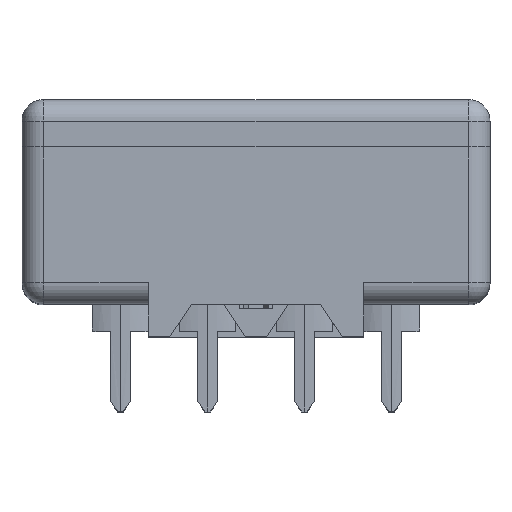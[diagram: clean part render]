
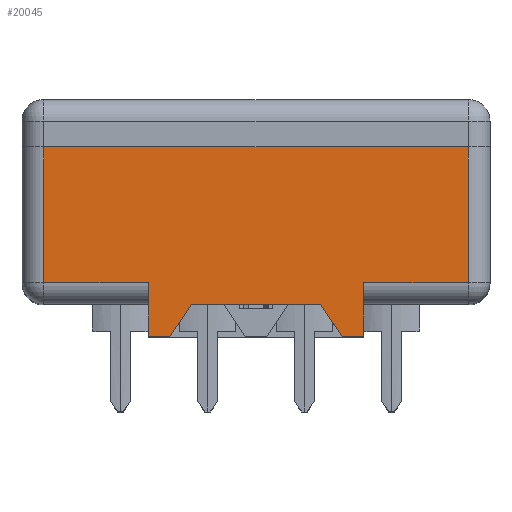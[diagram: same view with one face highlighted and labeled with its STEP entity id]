
A CAD part, top view. The second image highlights one B-rep face of the part: STEP entity #20045.
In plain terms, the highlighted planar face has unit normal (0, 0, 1).
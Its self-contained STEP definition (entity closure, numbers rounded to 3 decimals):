
#425 = VERTEX_POINT ( 'NONE', #6103 ) ;
#429 = VERTEX_POINT ( 'NONE', #6107 ) ;
#447 = VERTEX_POINT ( 'NONE', #6125 ) ;
#559 = VERTEX_POINT ( 'NONE', #6237 ) ;
#669 = VERTEX_POINT ( 'NONE', #6347 ) ;
#672 = VERTEX_POINT ( 'NONE', #6350 ) ;
#736 = VERTEX_POINT ( 'NONE', #6414 ) ;
#776 = VERTEX_POINT ( 'NONE', #6454 ) ;
#790 = VERTEX_POINT ( 'NONE', #6468 ) ;
#805 = VERTEX_POINT ( 'NONE', #6483 ) ;
#846 = VERTEX_POINT ( 'NONE', #6524 ) ;
#847 = VERTEX_POINT ( 'NONE', #6525 ) ;
#3421 = ORIENTED_EDGE ( 'NONE', *, *, #4004, .T. ) ;
#3422 = ORIENTED_EDGE ( 'NONE', *, *, #3891, .F. ) ;
#3423 = ORIENTED_EDGE ( 'NONE', *, *, #4003, .F. ) ;
#3424 = ORIENTED_EDGE ( 'NONE', *, *, #4005, .F. ) ;
#3425 = ORIENTED_EDGE ( 'NONE', *, *, #20719, .F. ) ;
#3426 = ORIENTED_EDGE ( 'NONE', *, *, #4006, .F. ) ;
#3427 = ORIENTED_EDGE ( 'NONE', *, *, #4007, .T. ) ;
#3428 = ORIENTED_EDGE ( 'NONE', *, *, #3894, .F. ) ;
#3429 = ORIENTED_EDGE ( 'NONE', *, *, #3879, .F. ) ;
#3430 = ORIENTED_EDGE ( 'NONE', *, *, #4000, .T. ) ;
#3431 = ORIENTED_EDGE ( 'NONE', *, *, #4008, .T. ) ;
#3432 = ORIENTED_EDGE ( 'NONE', *, *, #4009, .T. ) ;
#3879 = EDGE_CURVE ( 'NONE', #425, #559, #8579, .T. ) ;
#3891 = EDGE_CURVE ( 'NONE', #429, #847, #8615, .T. ) ;
#3894 = EDGE_CURVE ( 'NONE', #559, #846, #8624, .T. ) ;
#4000 = EDGE_CURVE ( 'NONE', #790, #805, #8942, .T. ) ;
#4003 = EDGE_CURVE ( 'NONE', #847, #669, #8951, .T. ) ;
#4004 = EDGE_CURVE ( 'NONE', #776, #669, #8954, .T. ) ;
#4005 = EDGE_CURVE ( 'NONE', #736, #429, #8957, .T. ) ;
#4006 = EDGE_CURVE ( 'NONE', #846, #672, #8960, .T. ) ;
#4007 = EDGE_CURVE ( 'NONE', #425, #447, #8963, .T. ) ;
#4008 = EDGE_CURVE ( 'NONE', #447, #790, #8966, .T. ) ;
#4009 = EDGE_CURVE ( 'NONE', #805, #776, #8969, .T. ) ;
#5294 = EDGE_LOOP ( 'NONE', ( #3421, #3423, #3422, #3424, #3425, #3426, #3428, #3429, #3427, #3431, #3430, #3432 ) ) ;
#6103 = CARTESIAN_POINT ( 'NONE',  ( 5., -6.3, 12.6 ) ) ;
#6107 = CARTESIAN_POINT ( 'NONE',  ( -4., -8.8, 12.6 ) ) ;
#6125 = CARTESIAN_POINT ( 'NONE',  ( 9.875, -6.3, 12.6 ) ) ;
#6237 = CARTESIAN_POINT ( 'NONE',  ( 5., -8.8, 12.6 ) ) ;
#6347 = CARTESIAN_POINT ( 'NONE',  ( -5., -6.3, 12.6 ) ) ;
#6350 = CARTESIAN_POINT ( 'NONE',  ( 3., -7.3, 12.6 ) ) ;
#6414 = CARTESIAN_POINT ( 'NONE',  ( -3., -7.3, 12.6 ) ) ;
#6454 = CARTESIAN_POINT ( 'NONE',  ( -9.875, -6.3, 12.6 ) ) ;
#6468 = CARTESIAN_POINT ( 'NONE',  ( 9.875, 0., 12.6 ) ) ;
#6483 = CARTESIAN_POINT ( 'NONE',  ( -9.875, 0., 12.6 ) ) ;
#6524 = CARTESIAN_POINT ( 'NONE',  ( 4., -8.8, 12.6 ) ) ;
#6525 = CARTESIAN_POINT ( 'NONE',  ( -5., -8.8, 12.6 ) ) ;
#8579 = LINE ( 'NONE', #8580, #12083 ) ;
#8580 = CARTESIAN_POINT ( 'NONE',  ( 5., -8.8, 12.6 ) ) ;
#8581 = DIRECTION ( 'NONE',  ( 0., -1., 0. ) ) ;
#8615 = LINE ( 'NONE', #8616, #12178 ) ;
#8616 = CARTESIAN_POINT ( 'NONE',  ( -10.875, -8.8, 12.6 ) ) ;
#8617 = DIRECTION ( 'NONE',  ( -1., 0., 0. ) ) ;
#8624 = LINE ( 'NONE', #8625, #12167 ) ;
#8625 = CARTESIAN_POINT ( 'NONE',  ( -10.875, -8.8, 12.6 ) ) ;
#8626 = DIRECTION ( 'NONE',  ( -1., 0., 0. ) ) ;
#8942 = LINE ( 'NONE', #8943, #9554 ) ;
#8943 = CARTESIAN_POINT ( 'NONE',  ( -10.875, 0., 12.6 ) ) ;
#8944 = DIRECTION ( 'NONE',  ( -1., 0., 0. ) ) ;
#8951 = LINE ( 'NONE', #8952, #9561 ) ;
#8952 = CARTESIAN_POINT ( 'NONE',  ( -5., -8.8, 12.6 ) ) ;
#8953 = DIRECTION ( 'NONE',  ( 0., 1., 0. ) ) ;
#8954 = LINE ( 'NONE', #8955, #9572 ) ;
#8955 = CARTESIAN_POINT ( 'NONE',  ( -10.875, -6.3, 12.6 ) ) ;
#8956 = DIRECTION ( 'NONE',  ( 1., 0., 0. ) ) ;
#8957 = LINE ( 'NONE', #8958, #9577 ) ;
#8958 = CARTESIAN_POINT ( 'NONE',  ( -3., -7.3, 12.6 ) ) ;
#8959 = DIRECTION ( 'NONE',  ( -0.555, -0.832, 0. ) ) ;
#8960 = LINE ( 'NONE', #8961, #9567 ) ;
#8961 = CARTESIAN_POINT ( 'NONE',  ( 4., -8.8, 12.6 ) ) ;
#8962 = DIRECTION ( 'NONE',  ( -0.555, 0.832, 0. ) ) ;
#8963 = LINE ( 'NONE', #8964, #9555 ) ;
#8964 = CARTESIAN_POINT ( 'NONE',  ( -10.875, -6.3, 12.6 ) ) ;
#8965 = DIRECTION ( 'NONE',  ( 1., 0., 0. ) ) ;
#8966 = LINE ( 'NONE', #8967, #9569 ) ;
#8967 = CARTESIAN_POINT ( 'NONE',  ( 9.875, -8.8, 12.6 ) ) ;
#8968 = DIRECTION ( 'NONE',  ( 0., 1., 0. ) ) ;
#8969 = LINE ( 'NONE', #8970, #9558 ) ;
#8970 = CARTESIAN_POINT ( 'NONE',  ( -9.875, -8.8, 12.6 ) ) ;
#8971 = DIRECTION ( 'NONE',  ( 0., -1., 0. ) ) ;
#9554 = VECTOR ( 'NONE', #8944, 1000. ) ;
#9555 = VECTOR ( 'NONE', #8965, 1000. ) ;
#9558 = VECTOR ( 'NONE', #8971, 1000. ) ;
#9561 = VECTOR ( 'NONE', #8953, 1000. ) ;
#9567 = VECTOR ( 'NONE', #8962, 1000. ) ;
#9569 = VECTOR ( 'NONE', #8968, 1000. ) ;
#9572 = VECTOR ( 'NONE', #8956, 1000. ) ;
#9577 = VECTOR ( 'NONE', #8959, 1000. ) ;
#12083 = VECTOR ( 'NONE', #8581, 1000. ) ;
#12167 = VECTOR ( 'NONE', #8626, 1000. ) ;
#12178 = VECTOR ( 'NONE', #8617, 1000. ) ;
#15290 = FACE_OUTER_BOUND ( 'NONE', #5294, .T. ) ;
#15308 = AXIS2_PLACEMENT_3D ( 'NONE', #16006, #16007, #16008 ) ;
#16005 = PLANE ( 'NONE',  #15308 ) ;
#16006 = CARTESIAN_POINT ( 'NONE',  ( -10.875, -8.8, 12.6 ) ) ;
#16007 = DIRECTION ( 'NONE',  ( 0., 0., -1. ) ) ;
#16008 = DIRECTION ( 'NONE',  ( -1., 0., 0. ) ) ;
#20045 = ADVANCED_FACE ( 'NONE', ( #15290 ), #16005, .F. ) ;
#20719 = EDGE_CURVE ( 'NONE', #672, #736, #21760, .T. ) ;
#21760 = LINE ( 'NONE', #21761, #22078 ) ;
#21761 = CARTESIAN_POINT ( 'NONE',  ( 1.5, -7.3, 12.6 ) ) ;
#21762 = DIRECTION ( 'NONE',  ( -1., 0., 0. ) ) ;
#22078 = VECTOR ( 'NONE', #21762, 1000. ) ;
